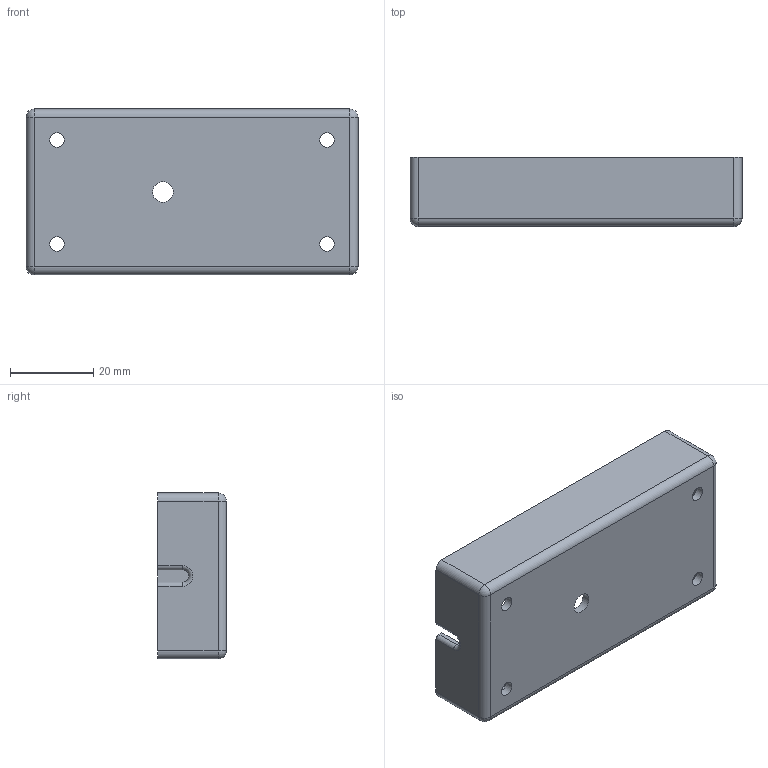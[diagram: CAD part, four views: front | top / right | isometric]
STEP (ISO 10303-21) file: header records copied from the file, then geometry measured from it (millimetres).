
FILE_DESCRIPTION(/* description */ (''),/* implementation_level */ '2;1');
FILE_NAME(/* name */ 'G:/NAS/EE/Projekte/Taster Selbsthaltung Xbox Adaptive Controller/Gehäuse/step export/Gehäuse Oberteil v14.step',/* time_stamp */ '2021-01-21T17:18:32+01:00',/* author */ (''),/* organization */ (''),/* preprocessor_version */ 'ST-DEVELOPER v18.1',/* originating_system */ 'Autodesk Translation Framework v9.7.1.1290',/* authorisation */ '');
FILE_SCHEMA (('AUTOMOTIVE_DESIGN { 1 0 10303 214 3 1 1 }'));
Length unit declared in the file: millimetre
Products named in the file (1): Gehäuse Oberteil
Bounding box: 80 x 16.6 x 40 mm (x, y, z)
Volume: 12616.6 mm3; surface area: 13280 mm2
Topology: 1 solids, 1 shells, 48 faces, 120 edges, 74 vertices
Faces by surface type: cylinder 22, plane 19, sphere 4, torus 3
Full cylindrical faces by diameter (mm): 3.5 x4, 5 x1
Entity records: 1480 total; most frequent: DIRECTION 265, CARTESIAN_POINT 243, ORIENTED_EDGE 240, EDGE_CURVE 120, AXIS2_PLACEMENT_3D 96, VERTEX_POINT 74, LINE 73, VECTOR 73
